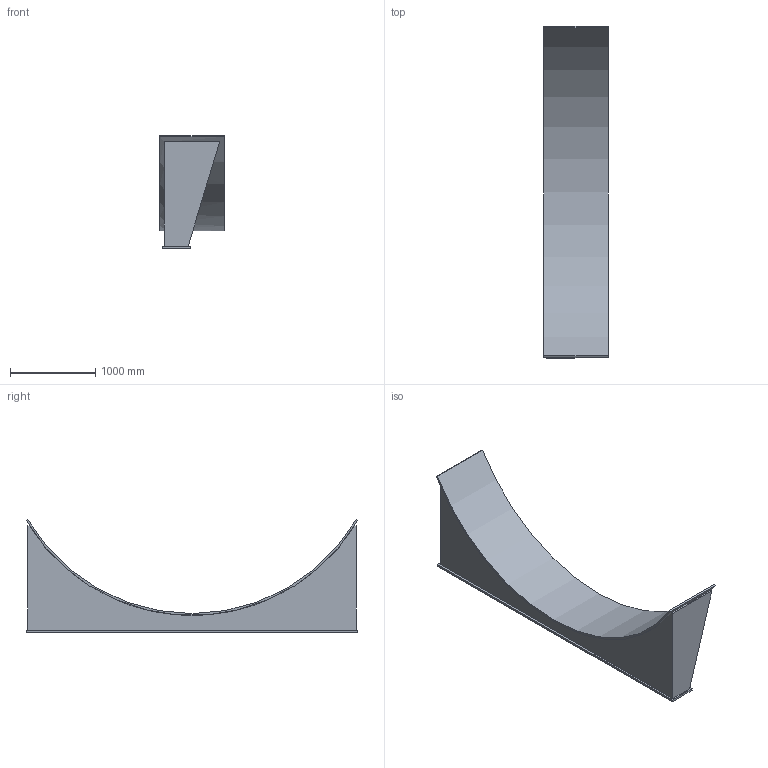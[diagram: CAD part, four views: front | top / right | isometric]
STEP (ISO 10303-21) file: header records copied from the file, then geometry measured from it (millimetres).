
FILE_DESCRIPTION(/* description */ (''),/* implementation_level */ '2;1');
FILE_NAME(/* name */ 'C:\Users\D\Documents\Inventor\HP\JPI\横置きタンクサドル\重荷重用\hc-saddle-hl_4400.stp',/* time_stamp */ '2026-01-27T18:45:29+09:00',/* author */ ('D'),/* organization */ (''),/* preprocessor_version */ 'ST-DEVELOPER v18',/* originating_system */ 'Autodesk Inventor 2020',/* authorisation */ '');
FILE_SCHEMA (('AUTOMOTIVE_DESIGN { 1 0 10303 214 3 1 1 }'));
Length unit declared in the file: millimetre
Products named in the file (1): 200A
Bounding box: 750 x 3890 x 1316.13 mm (x, y, z)
Volume: 179167069.8 mm3; surface area: 16294855 mm2
Topology: 1 solids, 1 shells, 42 faces, 110 edges, 72 vertices
Faces by surface type: plane 36, cylinder 6
Full cylindrical faces by diameter (mm): 54 x4
Entity records: 1375 total; most frequent: ORIENTED_EDGE 230, CARTESIAN_POINT 230, DIRECTION 222, EDGE_CURVE 115, LINE 94, VECTOR 94, VERTEX_POINT 72, AXIS2_PLACEMENT_3D 64
